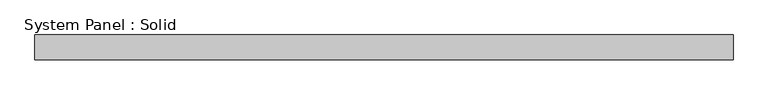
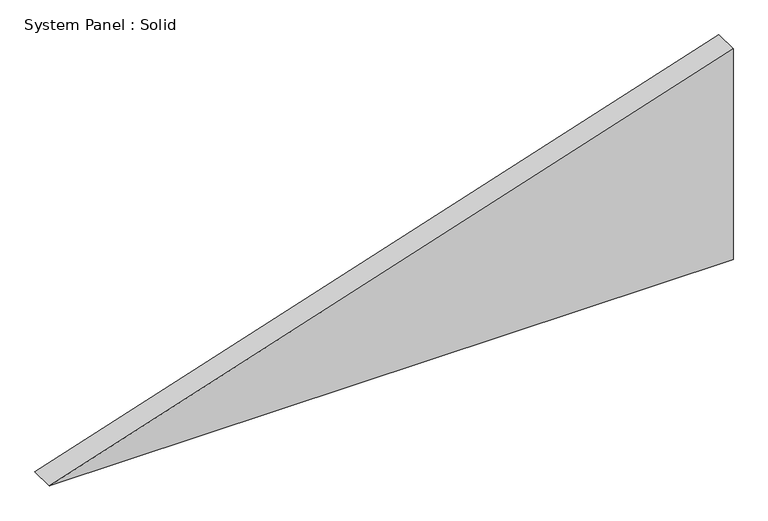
"""IFC4 building model written with IfcOpenShell, lengths in millimetres: plate geometry, System Panel : Solid."""

from ifc_helpers import new_model, si_unit, frame, origin, place, context, project, spatial, polyline, outline, extrude, source, transform, mapped, element, save


def system_panel_solid_cf835204(model_context):
    return source(origin(), model_context, "Body", "SweptSolid", [
        extrude(outline(polyline([(0.0, -885.8703197), (0.0, 885.8703197), (577.3479143, 885.8703197), (0.0, -885.8703197)])), frame((0.0, -19.05, 0.0), z_axis=(0.0, 1.0, 0.0), x_axis=(0.0, 0.0, 1.0)), (0.0, 0.0, 1.0), 63.5),
    ])


if __name__ == "__main__":
    model = new_model("IFC4")
    model_context = context("Model", 3, world=origin())
    ifc_project = project(units=[si_unit("LENGTHUNIT", "METRE", prefix="MILLI")], contexts=[model_context])
    site = spatial("IfcSite", under=ifc_project)
    building = spatial("IfcBuilding", under=site)
    placement = place(None, origin())
    system_panel_solid_shape = system_panel_solid_cf835204(model_context)
    element("IfcPlate", 1, ObjectType="System Panel : Solid", at=placement, inside=building, context=model_context, shape_type="MappedRepresentation", body=[
        mapped(system_panel_solid_shape, transform((0.0, 0.0, 0.0), x_axis=(1.0, 0.0, 0.0), y_axis=(0.0, 1.0, 0.0), z_axis=(0.0, 0.0, 1.0))),
    ])
    save(model, "model.ifc")
